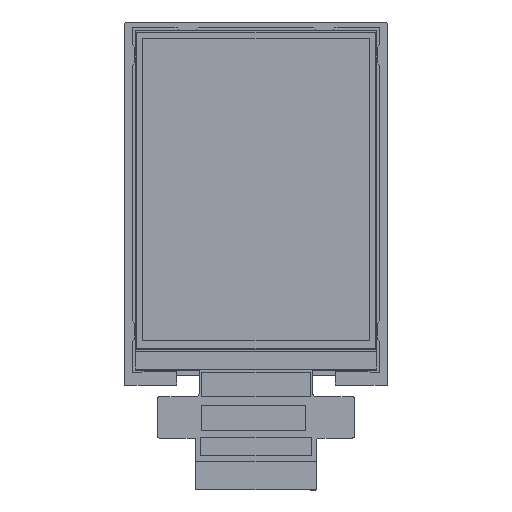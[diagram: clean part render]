
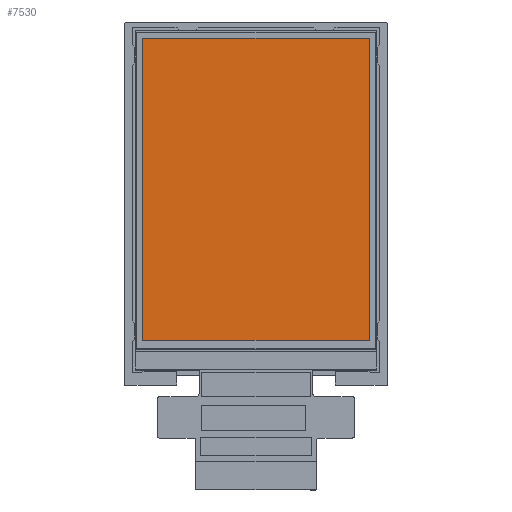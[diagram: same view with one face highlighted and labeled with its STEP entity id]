
A CAD part, top view. The second image highlights one B-rep face of the part: STEP entity #7530.
In plain terms, the highlighted planar face has unit normal (0, 0, 1).
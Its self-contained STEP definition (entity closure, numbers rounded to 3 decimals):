
#32 = EDGE_CURVE ( 'NONE', #9069, #1285, #6685, .T. ) ;
#224 = EDGE_CURVE ( 'NONE', #8992, #9069, #8970, .T. ) ;
#677 = LINE ( 'NONE', #8315, #2629 ) ;
#715 = CARTESIAN_POINT ( 'NONE',  ( 46.6, 16.651, 0. ) ) ;
#843 = ORIENTED_EDGE ( 'NONE', *, *, #5250, .F. ) ;
#1285 = VERTEX_POINT ( 'NONE', #3920 ) ;
#1335 = EDGE_LOOP ( 'NONE', ( #4849, #2130, #3555, #843 ) ) ;
#1480 = VECTOR ( 'NONE', #10946, 1000. ) ;
#2130 = ORIENTED_EDGE ( 'NONE', *, *, #224, .F. ) ;
#2629 = VECTOR ( 'NONE', #5732, 1000. ) ;
#2821 = DIRECTION ( 'NONE',  ( 1., 0., 0. ) ) ;
#2863 = CARTESIAN_POINT ( 'NONE',  ( 3.4, 74.251, 0. ) ) ;
#3511 = DIRECTION ( 'NONE',  ( 0., 0., 1. ) ) ;
#3555 = ORIENTED_EDGE ( 'NONE', *, *, #9917, .F. ) ;
#3805 = CARTESIAN_POINT ( 'NONE',  ( 46.6, 16.651, 0. ) ) ;
#3884 = AXIS2_PLACEMENT_3D ( 'NONE', #9521, #3511, #2821 ) ;
#3920 = CARTESIAN_POINT ( 'NONE',  ( 46.6, 74.251, 0. ) ) ;
#4849 = ORIENTED_EDGE ( 'NONE', *, *, #32, .F. ) ;
#4868 = CARTESIAN_POINT ( 'NONE',  ( 3.4, 74.251, 0. ) ) ;
#5023 = FACE_OUTER_BOUND ( 'NONE', #1335, .T. ) ;
#5250 = EDGE_CURVE ( 'NONE', #1285, #5536, #8516, .T. ) ;
#5536 = VERTEX_POINT ( 'NONE', #3805 ) ;
#5732 = DIRECTION ( 'NONE',  ( -1., 0., 0. ) ) ;
#6685 = LINE ( 'NONE', #7544, #8639 ) ;
#7530 = ADVANCED_FACE ( 'NONE', ( #5023 ), #8436, .T. ) ;
#7544 = CARTESIAN_POINT ( 'NONE',  ( 46.6, 74.251, 0. ) ) ;
#8315 = CARTESIAN_POINT ( 'NONE',  ( 3.4, 16.651, 0. ) ) ;
#8436 = PLANE ( 'NONE',  #3884 ) ;
#8516 = LINE ( 'NONE', #715, #1480 ) ;
#8639 = VECTOR ( 'NONE', #10126, 1000. ) ;
#8819 = VECTOR ( 'NONE', #9987, 1000. ) ;
#8970 = LINE ( 'NONE', #4868, #8819 ) ;
#8992 = VERTEX_POINT ( 'NONE', #9455 ) ;
#9069 = VERTEX_POINT ( 'NONE', #2863 ) ;
#9455 = CARTESIAN_POINT ( 'NONE',  ( 3.4, 16.651, 0. ) ) ;
#9521 = CARTESIAN_POINT ( 'NONE',  ( -1957.761, -124.168, 0. ) ) ;
#9917 = EDGE_CURVE ( 'NONE', #5536, #8992, #677, .T. ) ;
#9987 = DIRECTION ( 'NONE',  ( 0., 1., 0. ) ) ;
#10126 = DIRECTION ( 'NONE',  ( 1., 0., 0. ) ) ;
#10946 = DIRECTION ( 'NONE',  ( 0., -1., 0. ) ) ;
